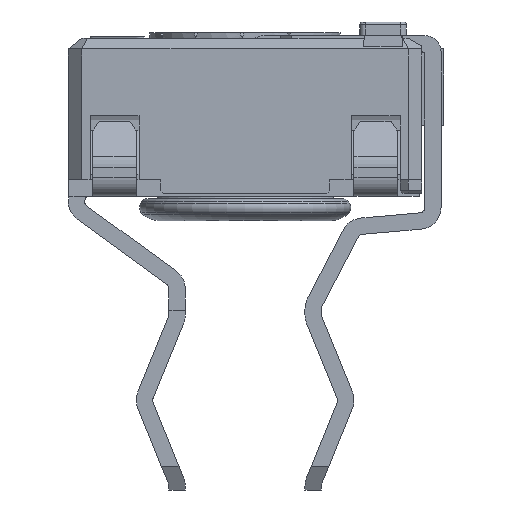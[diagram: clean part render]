
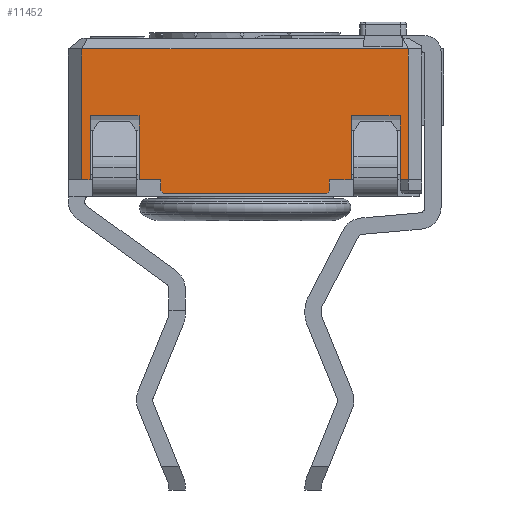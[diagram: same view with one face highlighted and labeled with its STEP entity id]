
A CAD part, left-side view. The second image highlights one B-rep face of the part: STEP entity #11452.
In plain terms, the highlighted planar face has unit normal (-1, 0, 0).
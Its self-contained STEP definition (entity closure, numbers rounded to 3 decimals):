
#1008=FACE_OUTER_BOUND('',#1618,.T.);
#1618=EDGE_LOOP('',(#9809,#9810,#9811,#9812,#9813,#9814,#9815,#9816,#9817,
#9818,#9819,#9820,#9821,#9822,#9823,#9824,#9825,#9826));
#2404=LINE('',#17442,#3692);
#2522=LINE('',#17703,#3810);
#2528=LINE('',#17716,#3816);
#2534=LINE('',#17727,#3822);
#2540=LINE('',#17738,#3828);
#2545=LINE('',#17748,#3833);
#2548=LINE('',#17754,#3836);
#2580=LINE('',#17816,#3868);
#2604=LINE('',#17871,#3892);
#2616=LINE('',#17891,#3904);
#2618=LINE('',#17896,#3906);
#2627=LINE('',#17915,#3915);
#2629=LINE('',#17918,#3917);
#2649=LINE('',#17959,#3937);
#2826=LINE('',#18403,#4114);
#2839=LINE('',#18427,#4127);
#2840=LINE('',#18429,#4128);
#2841=LINE('',#18431,#4129);
#3692=VECTOR('',#14119,10.);
#3810=VECTOR('',#14303,10.);
#3816=VECTOR('',#14311,10.);
#3822=VECTOR('',#14317,10.);
#3828=VECTOR('',#14325,10.);
#3833=VECTOR('',#14332,10.);
#3836=VECTOR('',#14337,10.);
#3868=VECTOR('',#14379,10.);
#3892=VECTOR('',#14431,10.);
#3904=VECTOR('',#14451,10.);
#3906=VECTOR('',#14455,10.);
#3915=VECTOR('',#14476,10.);
#3917=VECTOR('',#14480,10.);
#3937=VECTOR('',#14514,10.);
#4114=VECTOR('',#14939,10.);
#4127=VECTOR('',#14960,10.);
#4128=VECTOR('',#14963,10.);
#4129=VECTOR('',#14966,10.);
#4921=VERTEX_POINT('',#17439);
#4922=VERTEX_POINT('',#17441);
#5031=VERTEX_POINT('',#17700);
#5032=VERTEX_POINT('',#17702);
#5036=VERTEX_POINT('',#17712);
#5038=VERTEX_POINT('',#17715);
#5043=VERTEX_POINT('',#17725);
#5046=VERTEX_POINT('',#17735);
#5050=VERTEX_POINT('',#17745);
#5053=VERTEX_POINT('',#17752);
#5076=VERTEX_POINT('',#17803);
#5078=VERTEX_POINT('',#17815);
#5095=VERTEX_POINT('',#17867);
#5100=VERTEX_POINT('',#17893);
#5105=VERTEX_POINT('',#17914);
#5240=VERTEX_POINT('',#18400);
#5241=VERTEX_POINT('',#18402);
#5248=VERTEX_POINT('',#18425);
#6257=EDGE_CURVE('',#4922,#4921,#2404,.T.);
#6391=EDGE_CURVE('',#5032,#5031,#2522,.T.);
#6397=EDGE_CURVE('',#5038,#5036,#2528,.T.);
#6403=EDGE_CURVE('',#5031,#5043,#2534,.T.);
#6409=EDGE_CURVE('',#5036,#5046,#2540,.T.);
#6414=EDGE_CURVE('',#5046,#5050,#2545,.T.);
#6417=EDGE_CURVE('',#5050,#5053,#2548,.T.);
#6449=EDGE_CURVE('',#5078,#5032,#2580,.T.);
#6479=EDGE_CURVE('',#4921,#5078,#2604,.T.);
#6491=EDGE_CURVE('',#4922,#5095,#2616,.T.);
#6493=EDGE_CURVE('',#5043,#5100,#2618,.T.);
#6502=EDGE_CURVE('',#5105,#5076,#2627,.T.);
#6504=EDGE_CURVE('',#5095,#5076,#2629,.T.);
#6525=EDGE_CURVE('',#5053,#5105,#2649,.T.);
#6743=EDGE_CURVE('',#5240,#5241,#2826,.T.);
#6756=EDGE_CURVE('',#5248,#5100,#2839,.T.);
#6757=EDGE_CURVE('',#5248,#5241,#2840,.T.);
#6758=EDGE_CURVE('',#5240,#5038,#2841,.T.);
#9809=ORIENTED_EDGE('',*,*,#6756,.F.);
#9810=ORIENTED_EDGE('',*,*,#6757,.T.);
#9811=ORIENTED_EDGE('',*,*,#6743,.F.);
#9812=ORIENTED_EDGE('',*,*,#6758,.T.);
#9813=ORIENTED_EDGE('',*,*,#6397,.T.);
#9814=ORIENTED_EDGE('',*,*,#6409,.T.);
#9815=ORIENTED_EDGE('',*,*,#6414,.T.);
#9816=ORIENTED_EDGE('',*,*,#6417,.T.);
#9817=ORIENTED_EDGE('',*,*,#6525,.T.);
#9818=ORIENTED_EDGE('',*,*,#6502,.T.);
#9819=ORIENTED_EDGE('',*,*,#6504,.F.);
#9820=ORIENTED_EDGE('',*,*,#6491,.F.);
#9821=ORIENTED_EDGE('',*,*,#6257,.T.);
#9822=ORIENTED_EDGE('',*,*,#6479,.T.);
#9823=ORIENTED_EDGE('',*,*,#6449,.T.);
#9824=ORIENTED_EDGE('',*,*,#6391,.T.);
#9825=ORIENTED_EDGE('',*,*,#6403,.T.);
#9826=ORIENTED_EDGE('',*,*,#6493,.T.);
#10631=PLANE('',#12320);
#11452=ADVANCED_FACE('',(#1008),#10631,.T.);
#12320=AXIS2_PLACEMENT_3D('',#18612,#15168,#15169);
#14119=DIRECTION('',(0.,-1.,0.));
#14303=DIRECTION('',(0.,0.,-1.));
#14311=DIRECTION('',(0.,-1.,0.));
#14317=DIRECTION('',(0.,-1.,0.));
#14325=DIRECTION('',(0.,0.,1.));
#14332=DIRECTION('',(0.,-1.,0.));
#14337=DIRECTION('',(0.,0.,-1.));
#14379=DIRECTION('',(0.,-1.,0.));
#14431=DIRECTION('',(0.,0.,1.));
#14451=DIRECTION('',(0.,0.,1.));
#14455=DIRECTION('',(0.,0.,-1.));
#14476=DIRECTION('',(0.,0.,1.));
#14480=DIRECTION('',(0.,-1.,0.));
#14514=DIRECTION('',(0.,-1.,0.));
#14939=DIRECTION('',(0.,0.707,-0.707));
#14960=DIRECTION('',(0.,0.707,0.707));
#14963=DIRECTION('',(0.,-1.,0.));
#14966=DIRECTION('',(0.,0.,1.));
#15168=DIRECTION('center_axis',(-1.,0.,0.));
#15169=DIRECTION('ref_axis',(0.,0.,1.));
#17439=CARTESIAN_POINT('',(-14.26,-8.882,0.25));
#17441=CARTESIAN_POINT('',(-14.26,-8.732,0.25));
#17442=CARTESIAN_POINT('',(-14.26,-13.244,0.25));
#17700=CARTESIAN_POINT('',(-14.26,-9.782,0.25));
#17702=CARTESIAN_POINT('',(-14.26,-9.782,1.425));
#17703=CARTESIAN_POINT('',(-14.26,-9.782,0.387));
#17712=CARTESIAN_POINT('',(-14.26,-13.682,0.25));
#17715=CARTESIAN_POINT('',(-14.26,-13.282,0.25));
#17716=CARTESIAN_POINT('',(-14.26,-13.244,0.25));
#17725=CARTESIAN_POINT('',(-14.26,-10.182,0.25));
#17727=CARTESIAN_POINT('',(-14.26,-13.244,0.25));
#17735=CARTESIAN_POINT('',(-14.26,-13.682,1.425));
#17738=CARTESIAN_POINT('',(-14.26,-13.682,0.387));
#17745=CARTESIAN_POINT('',(-14.26,-14.582,1.425));
#17748=CARTESIAN_POINT('',(-14.26,-14.657,1.425));
#17752=CARTESIAN_POINT('',(-14.26,-14.582,0.25));
#17754=CARTESIAN_POINT('',(-14.26,-14.582,0.387));
#17803=CARTESIAN_POINT('',(-14.26,-14.732,2.655));
#17815=CARTESIAN_POINT('',(-14.26,-8.882,1.425));
#17816=CARTESIAN_POINT('',(-14.26,-11.807,1.425));
#17867=CARTESIAN_POINT('',(-14.26,-8.732,2.655));
#17871=CARTESIAN_POINT('',(-14.26,-8.882,0.387));
#17891=CARTESIAN_POINT('',(-14.26,-8.732,0.));
#17893=CARTESIAN_POINT('',(-14.26,-10.182,0.05));
#17896=CARTESIAN_POINT('',(-14.26,-10.182,0.));
#17914=CARTESIAN_POINT('',(-14.26,-14.732,0.25));
#17915=CARTESIAN_POINT('',(-14.26,-14.732,0.));
#17918=CARTESIAN_POINT('',(-14.26,-13.232,2.655));
#17959=CARTESIAN_POINT('',(-14.26,-13.244,0.25));
#18400=CARTESIAN_POINT('',(-14.26,-13.282,0.05));
#18402=CARTESIAN_POINT('',(-14.26,-13.232,0.));
#18403=CARTESIAN_POINT('',(-14.26,-13.619,0.388));
#18425=CARTESIAN_POINT('',(-14.26,-10.232,0.));
#18427=CARTESIAN_POINT('',(-14.26,-11.344,-1.113));
#18429=CARTESIAN_POINT('',(-14.26,-8.732,0.));
#18431=CARTESIAN_POINT('',(-14.26,-13.282,0.));
#18612=CARTESIAN_POINT('Origin',(-14.26,-14.732,0.));
